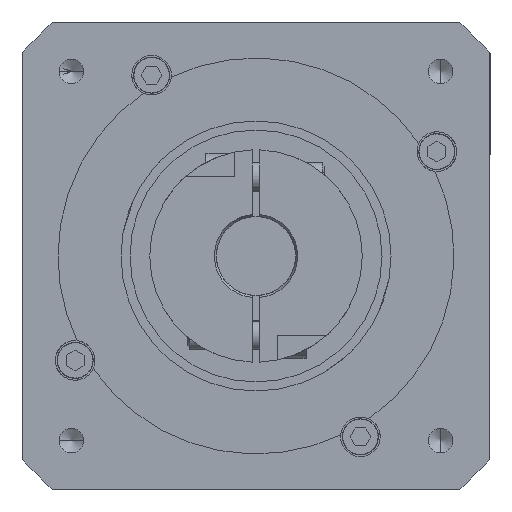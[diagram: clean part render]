
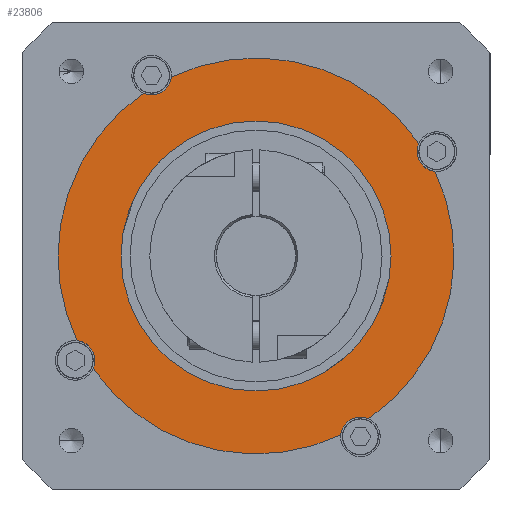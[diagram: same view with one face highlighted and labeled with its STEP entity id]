
A CAD part, front view. The second image highlights one B-rep face of the part: STEP entity #23806.
In plain terms, the highlighted planar face has unit normal (0, -1, 0) as drawn and (0, 0, -1) by its records, which use the part's own axes.
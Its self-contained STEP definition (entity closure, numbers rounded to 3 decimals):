
#332 = DIRECTION ( 'NONE',  ( 0., 0., -1. ) ) ;
#2644 = VERTEX_POINT ( 'NONE', #3339 ) ;
#2670 = CARTESIAN_POINT ( 'NONE',  ( -50.229, 29., -74. ) ) ;
#2873 = ORIENTED_EDGE ( 'NONE', *, *, #23284, .T. ) ;
#2884 = AXIS2_PLACEMENT_3D ( 'NONE', #4306, #22445, #6902 ) ;
#3039 = CIRCLE ( 'NONE', #8803, 55. ) ;
#3062 = EDGE_CURVE ( 'NONE', #5469, #25302, #30914, .T. ) ;
#3066 = EDGE_CURVE ( 'NONE', #31694, #9546, #24068, .T. ) ;
#3116 = CARTESIAN_POINT ( 'NONE',  ( 50.229, -29., -74. ) ) ;
#3339 = CARTESIAN_POINT ( 'NONE',  ( -49.715, 23.524, -74. ) ) ;
#3475 = ORIENTED_EDGE ( 'NONE', *, *, #3066, .F. ) ;
#3791 = ORIENTED_EDGE ( 'NONE', *, *, #31014, .T. ) ;
#4200 = AXIS2_PLACEMENT_3D ( 'NONE', #7121, #9746, #27867 ) ;
#4306 = CARTESIAN_POINT ( 'NONE',  ( 0., 0., -74. ) ) ;
#4501 = VERTEX_POINT ( 'NONE', #19394 ) ;
#5272 = DIRECTION ( 'NONE',  ( -1., 0., 0. ) ) ;
#5469 = VERTEX_POINT ( 'NONE', #5482 ) ;
#5482 = CARTESIAN_POINT ( 'NONE',  ( 23.524, 49.715, -74. ) ) ;
#5560 = AXIS2_PLACEMENT_3D ( 'NONE', #8467, #26611, #11088 ) ;
#5666 = DIRECTION ( 'NONE',  ( 0., 0., -1. ) ) ;
#5722 = DIRECTION ( 'NONE',  ( -1., 0., 0. ) ) ;
#6817 = DIRECTION ( 'NONE',  ( 0., 0., 1. ) ) ;
#6902 = DIRECTION ( 'NONE',  ( -1., 0., 0. ) ) ;
#7032 = CARTESIAN_POINT ( 'NONE',  ( -23.524, -49.715, -74. ) ) ;
#7121 = CARTESIAN_POINT ( 'NONE',  ( 0., 37.5, -74. ) ) ;
#7613 = CARTESIAN_POINT ( 'NONE',  ( -50.229, 29., -74. ) ) ;
#8119 = CARTESIAN_POINT ( 'NONE',  ( 29., 50.229, -74. ) ) ;
#8467 = CARTESIAN_POINT ( 'NONE',  ( 0., 0., -74. ) ) ;
#8687 = EDGE_CURVE ( 'NONE', #28806, #2644, #26769, .T. ) ;
#8803 = AXIS2_PLACEMENT_3D ( 'NONE', #27533, #12029, #30105 ) ;
#9085 = AXIS2_PLACEMENT_3D ( 'NONE', #22349, #6817, #24906 ) ;
#9237 = VERTEX_POINT ( 'NONE', #29527 ) ;
#9447 = CARTESIAN_POINT ( 'NONE',  ( -44.729, 29., -74. ) ) ;
#9546 = VERTEX_POINT ( 'NONE', #15403 ) ;
#9734 = CARTESIAN_POINT ( 'NONE',  ( 31.293, 45.23, -74. ) ) ;
#9746 = DIRECTION ( 'NONE',  ( 0., 0., 1. ) ) ;
#9796 = ORIENTED_EDGE ( 'NONE', *, *, #19974, .T. ) ;
#10249 = DIRECTION ( 'NONE',  ( -1., 0., 0. ) ) ;
#10583 = CARTESIAN_POINT ( 'NONE',  ( 49.715, -23.524, -74. ) ) ;
#10753 = DIRECTION ( 'NONE',  ( -1., 0., 0. ) ) ;
#10823 = AXIS2_PLACEMENT_3D ( 'NONE', #26621, #11095, #29205 ) ;
#10934 = EDGE_CURVE ( 'NONE', #25302, #28290, #31830, .T. ) ;
#11088 = DIRECTION ( 'NONE',  ( -1., 0., 0. ) ) ;
#11095 = DIRECTION ( 'NONE',  ( 0., 0., -1. ) ) ;
#11242 = ORIENTED_EDGE ( 'NONE', *, *, #10934, .T. ) ;
#12030 = CARTESIAN_POINT ( 'NONE',  ( -29., -50.229, -74. ) ) ;
#12029 = DIRECTION ( 'NONE',  ( 0., 0., -1. ) ) ;
#12085 = AXIS2_PLACEMENT_3D ( 'NONE', #8119, #26252, #10753 ) ;
#12184 = ORIENTED_EDGE ( 'NONE', *, *, #29934, .T. ) ;
#12606 = AXIS2_PLACEMENT_3D ( 'NONE', #12030, #30106, #14645 ) ;
#13331 = CARTESIAN_POINT ( 'NONE',  ( 0., 0., -74. ) ) ;
#13667 = CIRCLE ( 'NONE', #17272, 5.5 ) ;
#14043 = ORIENTED_EDGE ( 'NONE', *, *, #28341, .T. ) ;
#14645 = DIRECTION ( 'NONE',  ( -1., 0., 0. ) ) ;
#14845 = PLANE ( 'NONE',  #4200 ) ;
#15322 = VERTEX_POINT ( 'NONE', #23157 ) ;
#15403 = CARTESIAN_POINT ( 'NONE',  ( -37.5, 0., -74. ) ) ;
#15471 = AXIS2_PLACEMENT_3D ( 'NONE', #15832, #332, #18435 ) ;
#15832 = CARTESIAN_POINT ( 'NONE',  ( 0., 0., -74. ) ) ;
#15918 = DIRECTION ( 'NONE',  ( -1., 0., 0. ) ) ;
#17203 = AXIS2_PLACEMENT_3D ( 'NONE', #7613, #25733, #10249 ) ;
#17272 = AXIS2_PLACEMENT_3D ( 'NONE', #3116, #21241, #5722 ) ;
#17309 = AXIS2_PLACEMENT_3D ( 'NONE', #21187, #5666, #23768 ) ;
#17872 = CIRCLE ( 'NONE', #12606, 5.5 ) ;
#18045 = FACE_BOUND ( 'NONE', #20580, .T. ) ;
#18435 = DIRECTION ( 'NONE',  ( -1., 0., 0. ) ) ;
#18662 = CIRCLE ( 'NONE', #9085, 5.5 ) ;
#19177 = CIRCLE ( 'NONE', #10823, 55. ) ;
#19394 = CARTESIAN_POINT ( 'NONE',  ( -45.23, 31.293, -74. ) ) ;
#19973 = EDGE_CURVE ( 'NONE', #28290, #9237, #18662, .T. ) ;
#19974 = EDGE_CURVE ( 'NONE', #32226, #29210, #17872, .T. ) ;
#20064 = ORIENTED_EDGE ( 'NONE', *, *, #29728, .F. ) ;
#20521 = CIRCLE ( 'NONE', #5560, 55. ) ;
#20580 = EDGE_LOOP ( 'NONE', ( #20064, #3475 ) ) ;
#20790 = DIRECTION ( 'NONE',  ( 0., 0., 1. ) ) ;
#20966 = CARTESIAN_POINT ( 'NONE',  ( -55., 0., -74. ) ) ;
#21187 = CARTESIAN_POINT ( 'NONE',  ( 0., 0., -74. ) ) ;
#21241 = DIRECTION ( 'NONE',  ( 0., 0., 1. ) ) ;
#22349 = CARTESIAN_POINT ( 'NONE',  ( 50.229, -29., -74. ) ) ;
#22445 = DIRECTION ( 'NONE',  ( 0., 0., -1. ) ) ;
#23157 = CARTESIAN_POINT ( 'NONE',  ( 45.23, -31.293, -74. ) ) ;
#23284 = EDGE_CURVE ( 'NONE', #2644, #30350, #24111, .T. ) ;
#23301 = CARTESIAN_POINT ( 'NONE',  ( -31.293, -45.23, -74. ) ) ;
#23357 = AXIS2_PLACEMENT_3D ( 'NONE', #13331, #31350, #15918 ) ;
#23428 = EDGE_LOOP ( 'NONE', ( #26368, #25095, #2873, #26614, #3791, #25207, #11242, #23799, #14043, #12184, #9796 ) ) ;
#23768 = DIRECTION ( 'NONE',  ( -1., 0., 0. ) ) ;
#23799 = ORIENTED_EDGE ( 'NONE', *, *, #19973, .T. ) ;
#23806 = ADVANCED_FACE ( 'NONE', ( #32514, #18045 ), #14845, .F. ) ;
#24068 = CIRCLE ( 'NONE', #17309, 37.5 ) ;
#24111 = CIRCLE ( 'NONE', #17203, 5.5 ) ;
#24906 = DIRECTION ( 'NONE',  ( -1., 0., 0. ) ) ;
#25095 = ORIENTED_EDGE ( 'NONE', *, *, #8687, .T. ) ;
#25207 = ORIENTED_EDGE ( 'NONE', *, *, #3062, .T. ) ;
#25302 = VERTEX_POINT ( 'NONE', #9734 ) ;
#25733 = DIRECTION ( 'NONE',  ( 0., 0., 1. ) ) ;
#26252 = DIRECTION ( 'NONE',  ( 0., 0., 1. ) ) ;
#26368 = ORIENTED_EDGE ( 'NONE', *, *, #28922, .T. ) ;
#26611 = DIRECTION ( 'NONE',  ( 0., 0., -1. ) ) ;
#26614 = ORIENTED_EDGE ( 'NONE', *, *, #26795, .T. ) ;
#26621 = CARTESIAN_POINT ( 'NONE',  ( 0., 0., -74. ) ) ;
#26769 = CIRCLE ( 'NONE', #2884, 55. ) ;
#26795 = EDGE_CURVE ( 'NONE', #30350, #4501, #29179, .T. ) ;
#26820 = AXIS2_PLACEMENT_3D ( 'NONE', #2670, #20790, #5272 ) ;
#26927 = CIRCLE ( 'NONE', #23357, 37.5 ) ;
#27533 = CARTESIAN_POINT ( 'NONE',  ( 0., 0., -74. ) ) ;
#27867 = DIRECTION ( 'NONE',  ( 1., 0., 0. ) ) ;
#28290 = VERTEX_POINT ( 'NONE', #10583 ) ;
#28341 = EDGE_CURVE ( 'NONE', #9237, #15322, #13667, .T. ) ;
#28806 = VERTEX_POINT ( 'NONE', #20966 ) ;
#28922 = EDGE_CURVE ( 'NONE', #29210, #28806, #20521, .T. ) ;
#29179 = CIRCLE ( 'NONE', #26820, 5.5 ) ;
#29205 = DIRECTION ( 'NONE',  ( -1., 0., 0. ) ) ;
#29210 = VERTEX_POINT ( 'NONE', #23301 ) ;
#29527 = CARTESIAN_POINT ( 'NONE',  ( 44.729, -29., -74. ) ) ;
#29728 = EDGE_CURVE ( 'NONE', #9546, #31694, #26927, .T. ) ;
#29934 = EDGE_CURVE ( 'NONE', #15322, #32226, #3039, .T. ) ;
#30106 = DIRECTION ( 'NONE',  ( 0., 0., 1. ) ) ;
#30105 = DIRECTION ( 'NONE',  ( -1., 0., 0. ) ) ;
#30350 = VERTEX_POINT ( 'NONE', #9447 ) ;
#30914 = CIRCLE ( 'NONE', #12085, 5.5 ) ;
#31014 = EDGE_CURVE ( 'NONE', #4501, #5469, #19177, .T. ) ;
#31350 = DIRECTION ( 'NONE',  ( 0., 0., -1. ) ) ;
#31694 = VERTEX_POINT ( 'NONE', #32252 ) ;
#31830 = CIRCLE ( 'NONE', #15471, 55. ) ;
#32226 = VERTEX_POINT ( 'NONE', #7032 ) ;
#32252 = CARTESIAN_POINT ( 'NONE',  ( 37.5, 0., -74. ) ) ;
#32514 = FACE_OUTER_BOUND ( 'NONE', #23428, .T. ) ;
